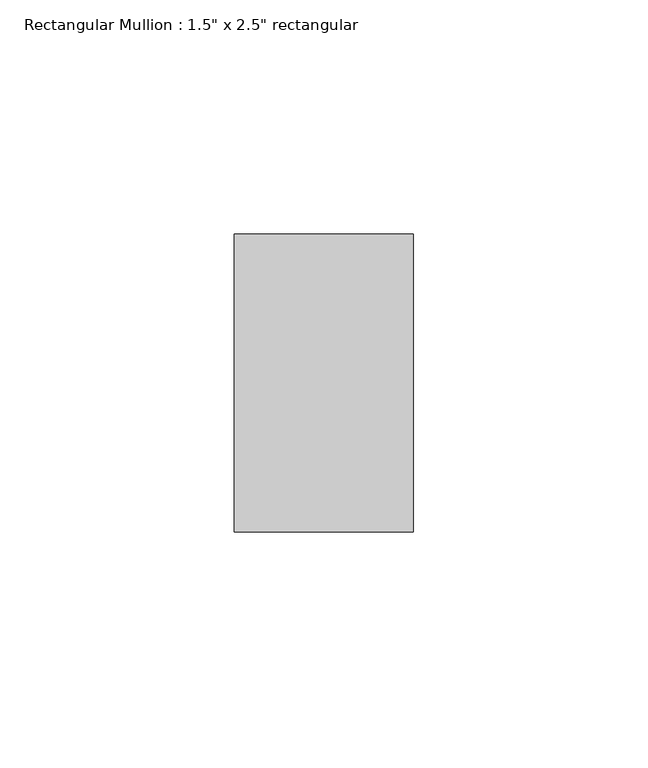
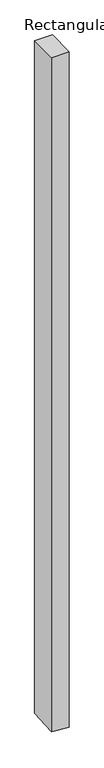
"""IFC4 building model written with IfcOpenShell, lengths in millimetres: member geometry."""

from ifc_helpers import new_model, si_unit, origin, place, context, project, spatial, faceted_brep, source, transform, mapped, element, save


def member_e1afa6be(model_context):
    return source(origin(), model_context, "Body", "Brep", [
        faceted_brep([(0.0, 31.75, 0.0), (-38.1, 31.75, 0.0), (-38.1, -31.75, 0.0), (0.0, -31.75, 0.0), (0.0, 31.75, -1542.0786994), (-38.1, 31.75, -1539.3766905), (-38.1, -31.75, -1543.9004924), (0.0, -31.75, -1546.6025013)], [[[0, 1, 2, 3]], [[1, 0, 4, 5]], [[2, 1, 5, 6]], [[3, 2, 6, 7]], [[0, 3, 7, 4]], [[4, 7, 6, 5]]]),
    ])


if __name__ == "__main__":
    model = new_model("IFC4")
    model_context = context("Model", 3, world=origin())
    ifc_project = project(units=[si_unit("LENGTHUNIT", "METRE", prefix="MILLI")], contexts=[model_context])
    site = spatial("IfcSite", under=ifc_project)
    building = spatial("IfcBuilding", under=site)
    placement = place(None, origin())
    member_shape = member_e1afa6be(model_context)
    element("IfcMember", 1, ObjectType="Rectangular Mullion : 1.5\" x 2.5\" rectangular", at=placement, inside=building, context=model_context, shape_type="MappedRepresentation", body=[
        mapped(member_shape, transform((0.0, 0.0, 0.0), x_axis=(1.0, 0.0, 0.0), y_axis=(0.0, 1.0, 0.0), z_axis=(0.0, 0.0, 1.0))),
    ])
    save(model, "model.ifc")
